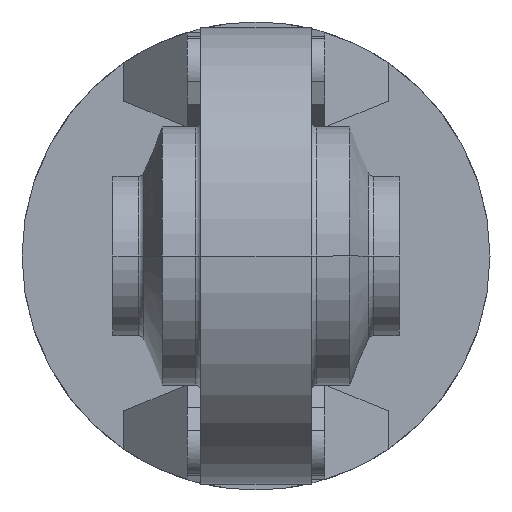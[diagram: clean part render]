
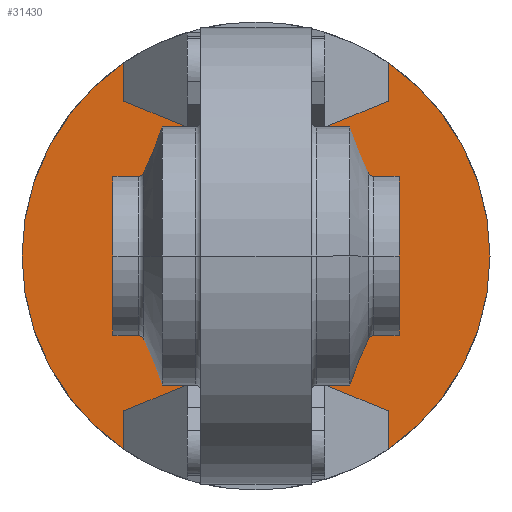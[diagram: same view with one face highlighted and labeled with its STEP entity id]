
A CAD part, front view. The second image highlights one B-rep face of the part: STEP entity #31430.
In plain terms, the highlighted planar face has unit normal (0, -1, 0).
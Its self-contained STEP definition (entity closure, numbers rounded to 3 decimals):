
#17260=CARTESIAN_POINT('',(-129.082,114.21,32.));
#17270=VERTEX_POINT('',#17260);
#17300=CARTESIAN_POINT('',(-129.082,114.21,
0.));
#17310=DIRECTION('',(0.,0.,-1.));
#17320=VECTOR('',#17310,1.);
#17330=LINE('',#17300,#17320);
#17340=CARTESIAN_POINT('',(-129.082,114.21,
35.075));
#17350=VERTEX_POINT('',#17340);
#17360=EDGE_CURVE('',#17350,#17270,#17330,.T.);
#18200=CARTESIAN_POINT('',(-105.082,114.21,40.));
#18210=VERTEX_POINT('',#18200);
#18240=CARTESIAN_POINT('',(-105.082,114.21,
0.));
#18250=DIRECTION('',(0.,-1.,0.));
#18260=DIRECTION('',(0.,0.,1.));
#18270=AXIS2_PLACEMENT_3D('',#18240,#18250,#18260);
#18280=CIRCLE('',#18270,40.);
#18290=EDGE_CURVE('',#18210,#17270,#18280,.T.);
#23750=CARTESIAN_POINT('',(-81.082,114.21,-32.));
#23760=VERTEX_POINT('',#23750);
#23790=CARTESIAN_POINT('',(-81.082,114.21,
0.));
#23800=DIRECTION('',(0.,0.,1.));
#23810=VECTOR('',#23800,1.);
#23820=LINE('',#23790,#23810);
#23830=CARTESIAN_POINT('',(-81.082,114.21,
-35.075));
#23840=VERTEX_POINT('',#23830);
#23850=EDGE_CURVE('',#23840,#23760,#23820,.T.);
#24330=CARTESIAN_POINT('',(-105.082,114.21,-40.));
#24340=VERTEX_POINT('',#24330);
#24370=CARTESIAN_POINT('',(-105.082,114.21,
0.));
#24380=DIRECTION('',(0.,-1.,0.));
#24390=DIRECTION('',(0.,0.,-1.));
#24400=AXIS2_PLACEMENT_3D('',#24370,#24380,#24390);
#24410=CIRCLE('',#24400,40.);
#24420=EDGE_CURVE('',#24340,#23760,#24410,.T.);
#26070=CARTESIAN_POINT('',(-105.082,114.21,
0.));
#26080=DIRECTION('',(0.,-1.,0.));
#26090=DIRECTION('',(0.,0.,1.));
#26100=AXIS2_PLACEMENT_3D('',#26070,#26080,#26090);
#26110=CIRCLE('',#26100,42.5);
#26120=CARTESIAN_POINT('',(-129.082,114.21,
-35.075));
#26130=VERTEX_POINT('',#26120);
#26140=EDGE_CURVE('',#17350,#26130,#26110,.T.);
#30920=CARTESIAN_POINT('',(-105.082,114.21,
0.));
#30930=DIRECTION('',(0.,-1.,0.));
#30940=DIRECTION('',(0.,0.,1.));
#30950=AXIS2_PLACEMENT_3D('',#30920,#30930,#30940);
#30960=PLANE('',#30950);
#30970=ORIENTED_EDGE('',*,*,#23850,.F.);
#30980=ORIENTED_EDGE('',*,*,#24420,.T.);
#30990=CARTESIAN_POINT('',(-129.082,114.21,-32.));
#31000=VERTEX_POINT('',#30990);
#31010=EDGE_CURVE('',#31000,#24340,#24410,.T.);
#31020=ORIENTED_EDGE('',*,*,#31010,.T.);
#31030=CARTESIAN_POINT('',(-129.082,114.21,
0.));
#31040=DIRECTION('',(0.,0.,-1.));
#31050=VECTOR('',#31040,1.);
#31060=LINE('',#31030,#31050);
#31070=EDGE_CURVE('',#31000,#26130,#31060,.T.);
#31080=ORIENTED_EDGE('',*,*,#31070,.F.);
#31090=ORIENTED_EDGE('',*,*,#26140,.T.);
#31100=ORIENTED_EDGE('',*,*,#17360,.F.);
#31110=ORIENTED_EDGE('',*,*,#18290,.T.);
#31120=CARTESIAN_POINT('',(-81.082,114.21,32.));
#31130=VERTEX_POINT('',#31120);
#31140=EDGE_CURVE('',#31130,#18210,#18280,.T.);
#31150=ORIENTED_EDGE('',*,*,#31140,.T.);
#31160=CARTESIAN_POINT('',(-81.082,114.21,
0.));
#31170=DIRECTION('',(0.,0.,1.));
#31180=VECTOR('',#31170,1.);
#31190=LINE('',#31160,#31180);
#31200=CARTESIAN_POINT('',(-81.082,114.21,
35.075));
#31210=VERTEX_POINT('',#31200);
#31220=EDGE_CURVE('',#31130,#31210,#31190,.T.);
#31230=ORIENTED_EDGE('',*,*,#31220,.F.);
#31240=EDGE_CURVE('',#23840,#31210,#26110,.T.);
#31250=ORIENTED_EDGE('',*,*,#31240,.T.);
#31260=EDGE_LOOP('',(#31250,#31230,#31150,#31110,#31100,#31090,#31080,
#31020,#30980,#30970));
#31270=FACE_OUTER_BOUND('',#31260,.T.);
#31280=CARTESIAN_POINT('',(-105.082,114.21,
0.));
#31290=DIRECTION('',(0.,-1.,0.));
#31300=DIRECTION('',(1.,0.,0.));
#31310=AXIS2_PLACEMENT_3D('',#31280,#31290,#31300);
#31320=CIRCLE('',#31310,10.);
#31330=CARTESIAN_POINT('',(-95.082,114.21,
0.));
#31340=VERTEX_POINT('',#31330);
#31350=CARTESIAN_POINT('',(-115.082,114.21,
0.));
#31360=VERTEX_POINT('',#31350);
#31370=EDGE_CURVE('',#31340,#31360,#31320,.T.);
#31380=ORIENTED_EDGE('',*,*,#31370,.F.);
#31390=EDGE_CURVE('',#31360,#31340,#31320,.T.);
#31400=ORIENTED_EDGE('',*,*,#31390,.F.);
#31410=EDGE_LOOP('',(#31400,#31380));
#31420=FACE_BOUND('',#31410,.T.);
#31430=ADVANCED_FACE('',(#31270,#31420),#30960,.T.);
